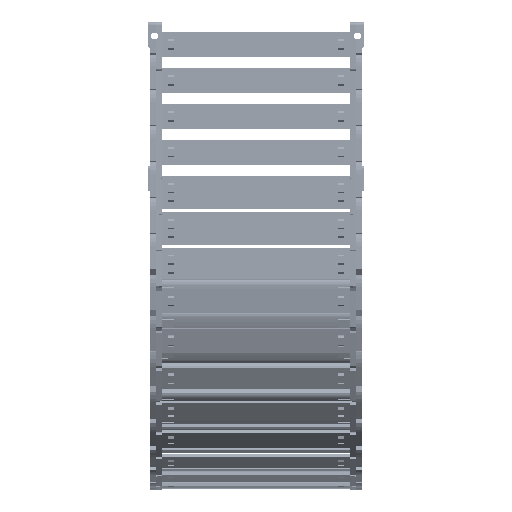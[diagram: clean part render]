
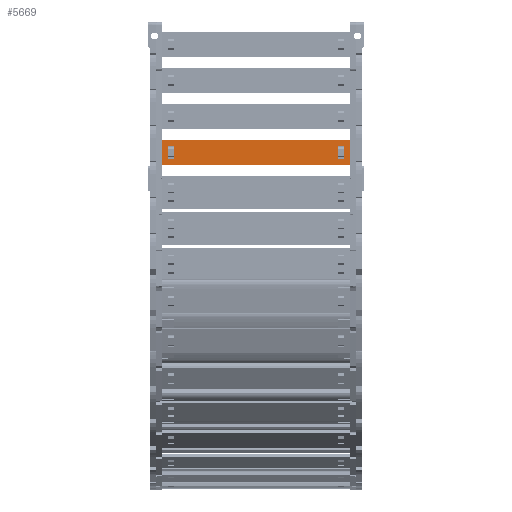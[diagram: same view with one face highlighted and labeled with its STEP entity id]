
A CAD part, left-side view. The second image highlights one B-rep face of the part: STEP entity #5669.
In plain terms, the highlighted planar face has unit normal (-1, 0, 0) as drawn and (0, 1, 0) by its records, which use the part's own axes.
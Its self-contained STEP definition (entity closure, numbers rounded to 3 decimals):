
#5089=DIRECTION('',(0.,0.,1.));
#5090=VECTOR('',#5089,15.8);
#5091=CARTESIAN_POINT('',(105.74,1.5,-7.9));
#5092=LINE('',#5091,#5090);
#5093=DIRECTION('',(-1.,0.,0.));
#5094=VECTOR('',#5093,120.5);
#5095=CARTESIAN_POINT('',(105.74,1.5,7.9));
#5096=LINE('',#5095,#5094);
#5097=DIRECTION('',(0.,0.,-1.));
#5098=VECTOR('',#5097,15.8);
#5099=CARTESIAN_POINT('',(-14.76,1.5,7.9));
#5100=LINE('',#5099,#5098);
#5101=DIRECTION('',(1.,0.,0.));
#5102=VECTOR('',#5101,3.648);
#5103=CARTESIAN_POINT('',(98.122,1.5,4.075));
#5104=LINE('',#5103,#5102);
#5105=DIRECTION('',(0.,0.,-1.));
#5106=VECTOR('',#5105,8.15);
#5107=CARTESIAN_POINT('',(101.77,1.5,4.075));
#5108=LINE('',#5107,#5106);
#5109=DIRECTION('',(-1.,0.,0.));
#5110=VECTOR('',#5109,3.648);
#5111=CARTESIAN_POINT('',(101.77,1.5,-4.075));
#5112=LINE('',#5111,#5110);
#5113=DIRECTION('',(0.,0.,-1.));
#5114=VECTOR('',#5113,8.15);
#5115=CARTESIAN_POINT('',(-7.142,1.5,4.075));
#5116=LINE('',#5115,#5114);
#5117=DIRECTION('',(-1.,0.,0.));
#5118=VECTOR('',#5117,3.648);
#5119=CARTESIAN_POINT('',(-7.142,1.5,-4.075));
#5120=LINE('',#5119,#5118);
#5121=DIRECTION('',(0.,0.,1.));
#5122=VECTOR('',#5121,8.15);
#5123=CARTESIAN_POINT('',(-10.79,1.5,-4.075));
#5124=LINE('',#5123,#5122);
#5125=DIRECTION('',(1.,0.,0.));
#5126=VECTOR('',#5125,3.648);
#5127=CARTESIAN_POINT('',(-10.79,1.5,4.075));
#5128=LINE('',#5127,#5126);
#5133=DIRECTION('',(-1.,0.,0.));
#5134=VECTOR('',#5133,120.5);
#5135=CARTESIAN_POINT('',(105.74,1.5,-7.9));
#5136=LINE('',#5135,#5134);
#5254=DIRECTION('',(0.,0.,-1.));
#5255=VECTOR('',#5254,8.15);
#5256=CARTESIAN_POINT('',(98.122,1.5,4.075));
#5257=LINE('',#5256,#5255);
#5439=CARTESIAN_POINT('',(101.77,1.5,4.075));
#5440=VERTEX_POINT('',#5439);
#5441=CARTESIAN_POINT('',(98.122,1.5,4.075));
#5442=VERTEX_POINT('',#5441);
#5483=CARTESIAN_POINT('',(98.122,1.5,-4.075));
#5484=VERTEX_POINT('',#5483);
#5485=CARTESIAN_POINT('',(101.77,1.5,-4.075));
#5486=VERTEX_POINT('',#5485);
#5487=CARTESIAN_POINT('',(105.74,1.5,7.9));
#5489=VERTEX_POINT('',#5487);
#5491=CARTESIAN_POINT('',(105.74,1.5,-7.9));
#5492=VERTEX_POINT('',#5491);
#5515=CARTESIAN_POINT('',(-7.142,1.5,4.075));
#5516=CARTESIAN_POINT('',(-7.142,1.5,-4.075));
#5517=VERTEX_POINT('',#5515);
#5518=VERTEX_POINT('',#5516);
#5519=CARTESIAN_POINT('',(-10.79,1.5,-4.075));
#5520=VERTEX_POINT('',#5519);
#5521=CARTESIAN_POINT('',(-10.79,1.5,4.075));
#5522=VERTEX_POINT('',#5521);
#5523=CARTESIAN_POINT('',(-14.76,1.5,7.9));
#5524=VERTEX_POINT('',#5523);
#5527=CARTESIAN_POINT('',(-14.76,1.5,-7.9));
#5528=VERTEX_POINT('',#5527);
#5638=CARTESIAN_POINT('',(137.48,1.5,10.061));
#5639=DIRECTION('',(0.,-1.,0.));
#5640=DIRECTION('',(0.,0.,-1.));
#5641=AXIS2_PLACEMENT_3D('',#5638,#5639,#5640);
#5642=PLANE('',#5641);
#5643=ORIENTED_EDGE('',*,*,#5577,.T.);
#5644=ORIENTED_EDGE('',*,*,#5603,.T.);
#5645=ORIENTED_EDGE('',*,*,#5616,.T.);
#5647=ORIENTED_EDGE('',*,*,#5646,.F.);
#5648=EDGE_LOOP('',(#5643,#5644,#5645,#5647));
#5649=FACE_OUTER_BOUND('',#5648,.F.);
#5651=ORIENTED_EDGE('',*,*,#5650,.F.);
#5652=ORIENTED_EDGE('',*,*,#5540,.T.);
#5654=ORIENTED_EDGE('',*,*,#5653,.T.);
#5656=ORIENTED_EDGE('',*,*,#5655,.T.);
#5657=EDGE_LOOP('',(#5651,#5652,#5654,#5656));
#5658=FACE_BOUND('',#5657,.F.);
#5660=ORIENTED_EDGE('',*,*,#5659,.T.);
#5662=ORIENTED_EDGE('',*,*,#5661,.T.);
#5664=ORIENTED_EDGE('',*,*,#5663,.T.);
#5666=ORIENTED_EDGE('',*,*,#5665,.T.);
#5667=EDGE_LOOP('',(#5660,#5662,#5664,#5666));
#5668=FACE_BOUND('',#5667,.F.);
#5669=ADVANCED_FACE('',(#5649,#5658,#5668),#5642,.F.);
#5540=EDGE_CURVE('',#5442,#5440,#5104,.T.);
#5577=EDGE_CURVE('',#5492,#5489,#5092,.T.);
#5603=EDGE_CURVE('',#5489,#5524,#5096,.T.);
#5616=EDGE_CURVE('',#5524,#5528,#5100,.T.);
#5646=EDGE_CURVE('',#5492,#5528,#5136,.T.);
#5650=EDGE_CURVE('',#5442,#5484,#5257,.T.);
#5653=EDGE_CURVE('',#5440,#5486,#5108,.T.);
#5655=EDGE_CURVE('',#5486,#5484,#5112,.T.);
#5659=EDGE_CURVE('',#5517,#5518,#5116,.T.);
#5661=EDGE_CURVE('',#5518,#5520,#5120,.T.);
#5663=EDGE_CURVE('',#5520,#5522,#5124,.T.);
#5665=EDGE_CURVE('',#5522,#5517,#5128,.T.);
